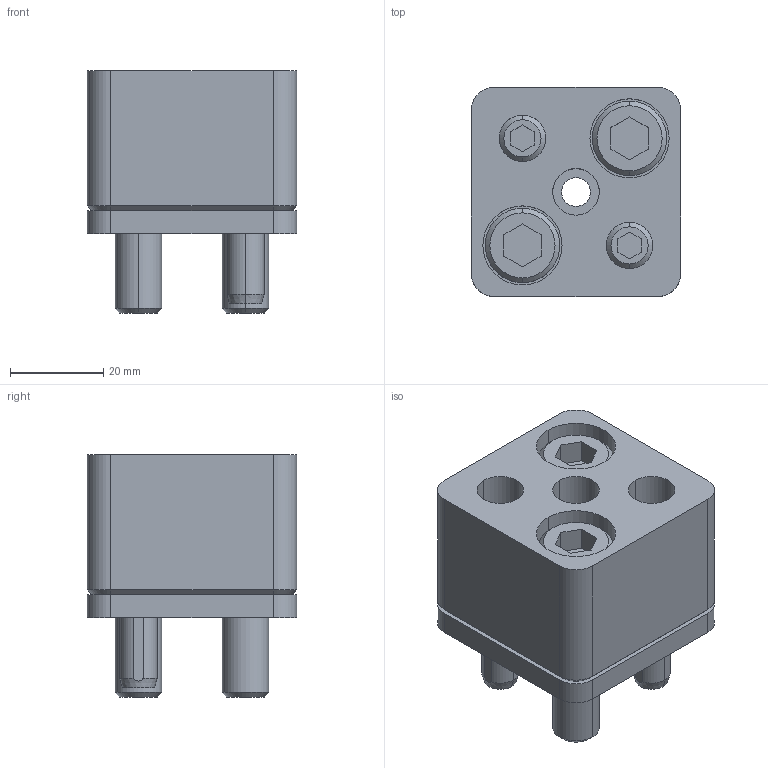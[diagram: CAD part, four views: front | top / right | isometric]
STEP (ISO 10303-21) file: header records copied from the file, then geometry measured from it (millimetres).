
FILE_DESCRIPTION(/* description */ (''),/* implementation_level */ '2;1');
FILE_NAME(/* name */ '3d_hsr-ap10_02777_r00.stp',/* time_stamp */ '2011-01-10T14:14:35+09:00',/* author */ ('MISUMI'),/* organization */ (''),/* preprocessor_version */ 'ST-DEVELOPER v11',/* originating_system */ 'UGS - NX 5.0',/* authorisation */ '');
FILE_SCHEMA (('CONFIG_CONTROL_DESIGN'));
Length unit declared in the file: millimetre
Products named in the file (1): 3d_hsr-ap10_02777_r00
Bounding box: 45 x 45 x 52 mm (x, y, z)
Volume: 65762.2 mm3; surface area: 25725.8 mm2
Topology: 8 solids, 8 shells, 163 faces, 362 edges, 230 vertices
Faces by surface type: plane 69, cylinder 64, cone 30
Entity records: 4678 total; most frequent: DIRECTION 840, CARTESIAN_POINT 816, ORIENTED_EDGE 724, EDGE_CURVE 362, AXIS2_PLACEMENT_3D 322, VERTEX_POINT 230, EDGE_LOOP 198, LINE 196
